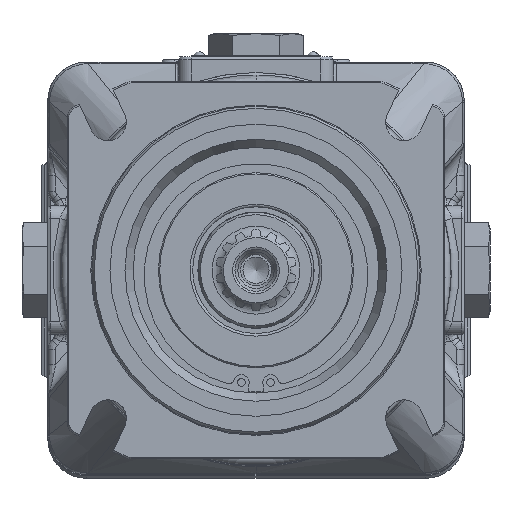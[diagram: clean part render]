
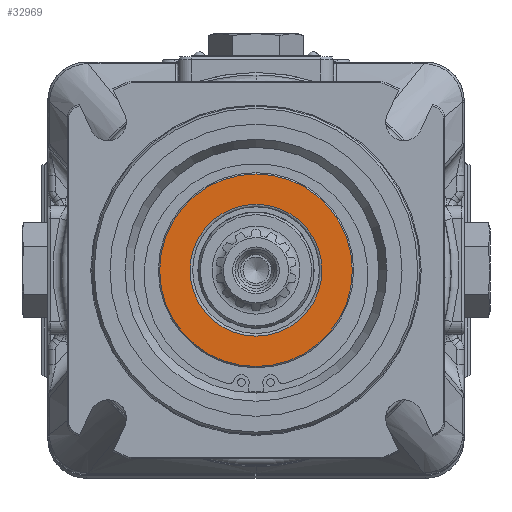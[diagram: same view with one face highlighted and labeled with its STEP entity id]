
A CAD part, front view. The second image highlights one B-rep face of the part: STEP entity #32969.
In plain terms, the highlighted planar face has unit normal (0, -1, 0).
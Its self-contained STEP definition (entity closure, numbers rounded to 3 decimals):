
#6484=PLANE('',#35931);
#7175=FACE_BOUND('',#10552,.T.);
#8460=FACE_OUTER_BOUND('',#10551,.T.);
#10551=EDGE_LOOP('',(#25501));
#10552=EDGE_LOOP('',(#25502));
#12605=CIRCLE('',#35930,25.5);
#12606=CIRCLE('',#35932,37.25);
#14420=VERTEX_POINT('',#60713);
#14421=VERTEX_POINT('',#60716);
#18325=EDGE_CURVE('',#14420,#14420,#12605,.T.);
#18326=EDGE_CURVE('',#14421,#14421,#12606,.T.);
#25501=ORIENTED_EDGE('',*,*,#18326,.F.);
#25502=ORIENTED_EDGE('',*,*,#18325,.F.);
#32969=ADVANCED_FACE('',(#8460,#7175),#6484,.T.);
#35930=AXIS2_PLACEMENT_3D('',#60714,#42066,#42067);
#35931=AXIS2_PLACEMENT_3D('',#60715,#42068,#42069);
#35932=AXIS2_PLACEMENT_3D('',#60717,#42070,#42071);
#42066=DIRECTION('center_axis',(0.,-1.,0.));
#42067=DIRECTION('ref_axis',(0.,0.,
-1.));
#42068=DIRECTION('center_axis',(0.,-1.,0.));
#42069=DIRECTION('ref_axis',(0.,0.,-1.));
#42070=DIRECTION('center_axis',(0.,1.,0.));
#42071=DIRECTION('ref_axis',(0.,0.,
-1.));
#60713=CARTESIAN_POINT('',(0.,-154.9,25.5));
#60714=CARTESIAN_POINT('Origin',(0.,-154.9,0.));
#60715=CARTESIAN_POINT('Origin',(0.,-154.9,31.375));
#60716=CARTESIAN_POINT('',(0.,-154.9,37.25));
#60717=CARTESIAN_POINT('Origin',(0.,-154.9,0.));
